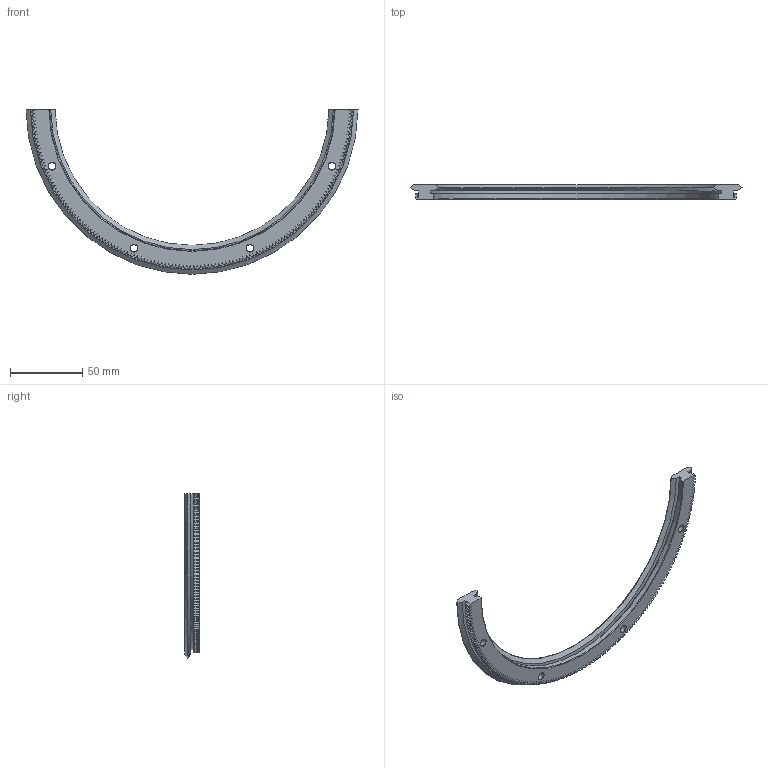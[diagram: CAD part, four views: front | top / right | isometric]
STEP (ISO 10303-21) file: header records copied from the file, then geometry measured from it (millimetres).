
FILE_DESCRIPTION( ( 'STEP AP203' ), '1' );
FILE_NAME( 'p:/temp/worker_71/temp/exporttempdir_3676_165_0oLbI/format_0/R20 210 R180 P.stp', '2021-08-30T04:11:06', ( 'License CC BY-ND 4.0' ), ( 'CADENAS' ), ' ', 'PARTsolutions', ' ' );
FILE_SCHEMA( ( 'CONFIG_CONTROL_DESIGN' ) );
Length unit declared in the file: millimetre
Products named in the file (1): _R20 210 R180 P
Bounding box: 230.09 x 10 x 114.05 mm (x, y, z)
Volume: 42453 mm3; surface area: 22520.5 mm2
Topology: 1 solids, 1 shells, 860 faces, 2282 edges, 1428 vertices
Faces by surface type: plane 564, cylinder 148, cone 146, torus 2
Full cylindrical faces by diameter (mm): 5 x4, 8 x4
Entity records: 26748 total; most frequent: CARTESIAN_POINT 5432, ORIENTED_EDGE 4540, DIRECTION 4426, EDGE_CURVE 2270, AXIS2_PLACEMENT_3D 1583, VERTEX_POINT 1429, LINE 1260, VECTOR 1260
